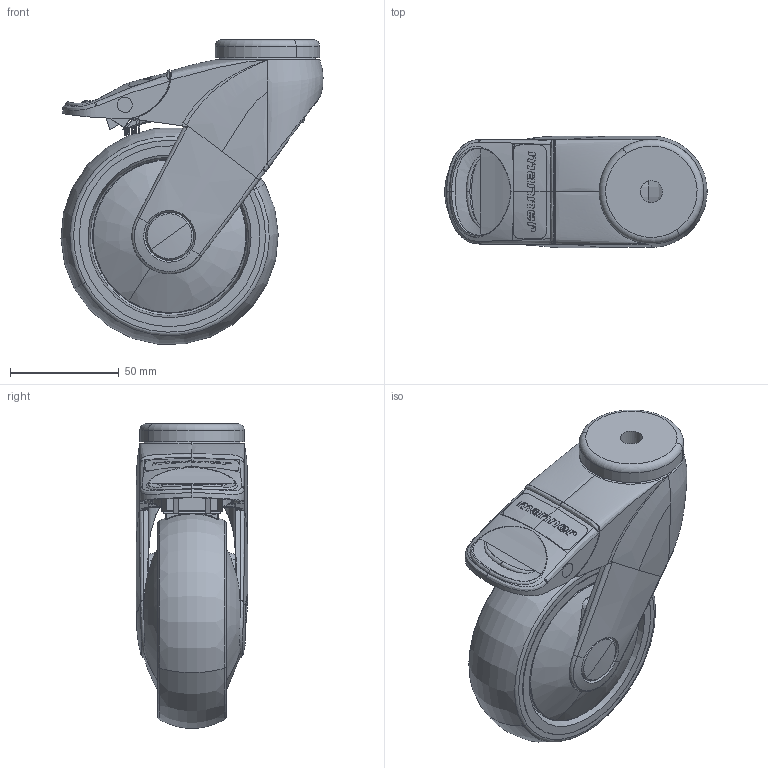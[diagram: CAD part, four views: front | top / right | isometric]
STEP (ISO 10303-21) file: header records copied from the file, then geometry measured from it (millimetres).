
FILE_DESCRIPTION (( 'STEP AP203' ), '1' );
FILE_NAME ('301735.STEP', '2010-07-14T06:51:52', ( ' ' ), ( ' ' ), 'SwSTEP 2.0', 'SolidWorks 2007', '' );
FILE_SCHEMA (( 'CONFIG_CONTROL_DESIGN' ));
Length unit declared in the file: millimetre
Products named in the file (1): 301735
Bounding box: 120.39 x 51.27 x 139.94 mm (x, y, z)
Volume: 250280.5 mm3; surface area: 141673.8 mm2
Topology: 24 solids, 24 shells, 1997 faces, 6157 edges, 4189 vertices
Faces by surface type: bspline 759, plane 539, cylinder 430, cone 117, torus 98, sphere 54
Entity records: 175704 total; most frequent: CARTESIAN_POINT 129976, ORIENTED_EDGE 12112, DIRECTION 6174, EDGE_CURVE 6056, VERTEX_POINT 4155, B_SPLINE_CURVE_WITH_KNOTS 3046, AXIS2_PLACEMENT_3D 2389, EDGE_LOOP 2073
